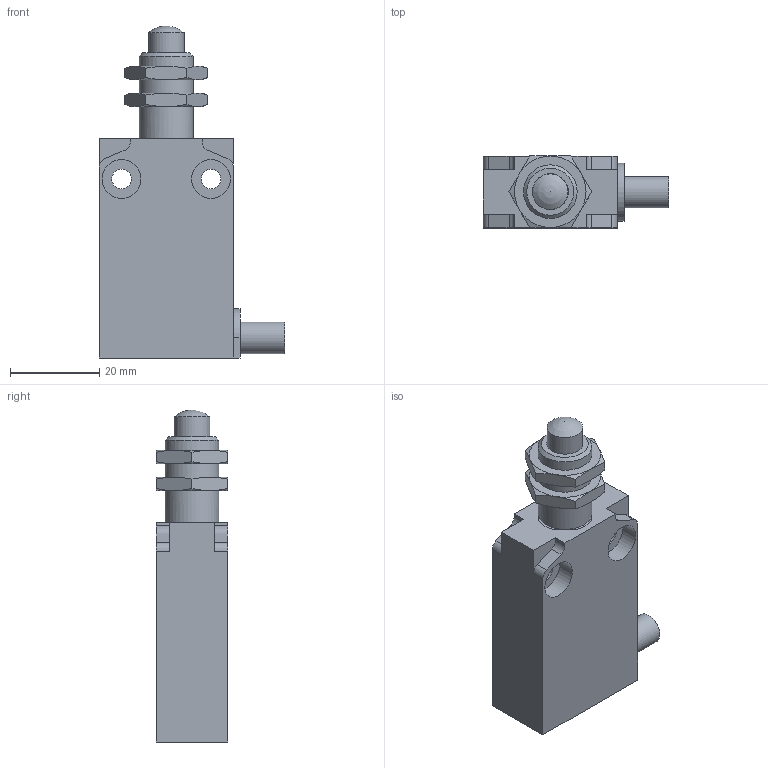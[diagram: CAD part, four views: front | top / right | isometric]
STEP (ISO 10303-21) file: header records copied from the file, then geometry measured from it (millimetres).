
FILE_DESCRIPTION(/* description */ (''),/* implementation_level */ '2;1');
FILE_NAME(/* name */ 'I49IWF_side CABLE.stp',/* time_stamp */ '2024-11-20T09:26:03+01:00',/* author */ ('servizio.tecnico'),/* organization */ (''),/* preprocessor_version */ 'ST-DEVELOPER v19.2',/* originating_system */ 'Autodesk Inventor 2024',/* authorisation */ '');
FILE_SCHEMA (('AUTOMOTIVE_DESIGN { 1 0 10303 214 3 1 1 }'));
Length unit declared in the file: millimetre
Products named in the file (2): EP1G21; Product
Assembly tree (1 placements, depth 2):
  EP1G21
    Product
Bounding box: 41.5 x 16 x 74.2 mm (x, y, z)
Volume: 25389.6 mm3; surface area: 9868.6 mm2
Topology: 5 solids, 5 shells, 118 faces, 276 edges, 174 vertices
Faces by surface type: plane 59, cylinder 29, cone 29, sphere 1
Full cylindrical faces by diameter (mm): 4.4 x2, 7 x1, 7.95 x1, 8.05 x1, 8.7 x4, 12 x3
Entity records: 3420 total; most frequent: CARTESIAN_POINT 682, DIRECTION 553, ORIENTED_EDGE 550, EDGE_CURVE 275, AXIS2_PLACEMENT_3D 213, VERTEX_POINT 174, EDGE_LOOP 133, LINE 127
